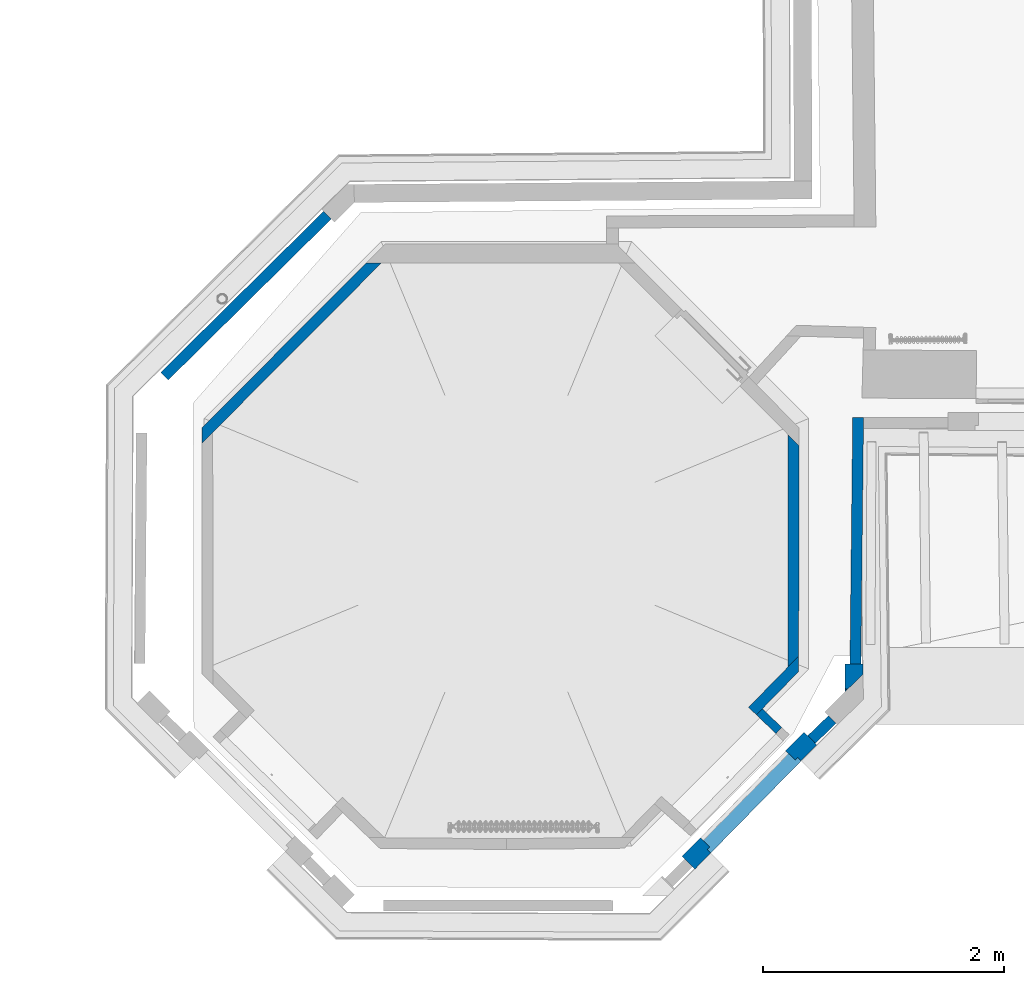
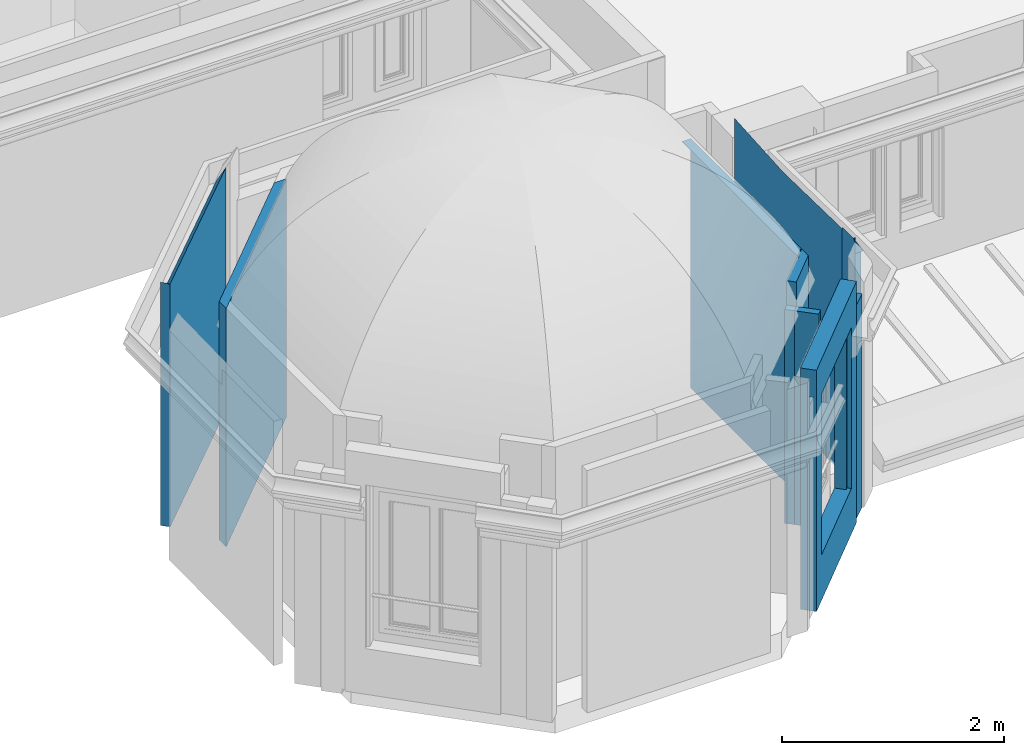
# One storey, part 5 of 72: 9 walls, 1 opening.
"""IFC2X3 building model written with IfcOpenShell, lengths in centimetres."""

import ifcopenshell
import ifcopenshell.guid

model = None  # the IFC model being written
_history = None  # IfcOwnerHistory: only IFC2X3 demands one
_inside = {}  # id of a spatial element -> (the spatial element, [elements in it])
_under = {}  # id of a project, library or spatial element -> (it, [spatial elements below it])
_declared = {}  # id of a project -> (the project, [libraries it declares])
_typed = {}  # id of a type object -> (the type object, [elements of that type])
_made_of = {}  # id of a material, layer set ... -> (it, [elements and type objects made of it])


def new_model(schema):
    """Start an empty IFC model of exactly this schema.

    Asked for "IFC4X3", IfcOpenShell would pick the latest addendum, in which some entities
    have other attributes; the version numbers below select the first issue.
    IFC2X3 requires an IfcOwnerHistory on every rooted entity: one is made here for all.
    """
    global model, _history
    if schema == "IFC4X3":
        model = ifcopenshell.file(schema_version=(4, 3, 0, 0))
    else:
        model = ifcopenshell.file(schema=schema)
    _inside.clear()
    _under.clear()
    _declared.clear()
    _typed.clear()
    _made_of.clear()
    _history = None
    if model.schema == "IFC2X3":
        org = make("IfcOrganization", Name="unknown")
        user = make(
            "IfcPersonAndOrganization",
            ThePerson=make("IfcPerson", FamilyName="unknown"),
            TheOrganization=org,
        )
        app = make(
            "IfcApplication",
            ApplicationDeveloper=org,
            Version="unknown",
            ApplicationFullName="unknown",
            ApplicationIdentifier="unknown",
        )
        _history = make(
            "IfcOwnerHistory",
            OwningUser=user,
            OwningApplication=app,
            ChangeAction="ADDED",
            CreationDate=0,
        )
    return model


def make(cls, **values):
    """One entity of the class cls with the attributes given. An attribute that is None is left unset."""
    return model.create_entity(
        cls, **{name: value for name, value in values.items() if value is not None}
    )


def entity(cls, *values):
    """Any entity or typed value of the class cls, its attributes in the order of the schema. None: left unset."""
    e = model.create_entity(cls)
    for i, value in enumerate(values):
        if value is not None:
            e[i] = value
    return e


def rooted(cls, **values):
    """An entity with a GlobalId (a new one), such as an element, a storey or a relation."""
    return make(cls, GlobalId=ifcopenshell.guid.new(), OwnerHistory=_history, **values)


def si_unit(unit_type, name, prefix=None):
    """IfcSIUnit, for example si_unit("LENGTHUNIT", "METRE", prefix="MILLI")."""
    return make("IfcSIUnit", UnitType=unit_type, Prefix=prefix, Name=name)


def converted_unit(unit_type, name, factor, base, dimensions=None, offset=None):
    """IfcConversionBasedUnit, such as the inch: factor (a typed value) times the base unit."""
    return make(
        "IfcConversionBasedUnit"
        if offset is None
        else "IfcConversionBasedUnitWithOffset",
        ConversionOffset=offset,
        Dimensions=None
        if dimensions is None
        else entity("IfcDimensionalExponents", *dimensions),
        UnitType=unit_type,
        Name=name,
        ConversionFactor=make(
            "IfcMeasureWithUnit", ValueComponent=factor, UnitComponent=base
        ),
    )


def assignment(units):
    """IfcUnitAssignment: the units of a project."""
    return None if units is None else make("IfcUnitAssignment", Units=units)


def point(xyz):
    """IfcCartesianPoint."""
    return None if xyz is None else make("IfcCartesianPoint", Coordinates=xyz)


def direction(xyz):
    """IfcDirection."""
    return None if xyz is None else make("IfcDirection", DirectionRatios=xyz)


def frame(location, z_axis=None, x_axis=None):
    """IfcAxis2Placement3D, a coordinate frame: its origin and axes. An axis left out is left unset."""
    return make(
        "IfcAxis2Placement3D",
        Location=point(location),
        Axis=direction(z_axis),
        RefDirection=direction(x_axis),
    )


def frame_2d(location, x_axis=None):
    """IfcAxis2Placement2D, a coordinate frame in the plane: its origin and x axis."""
    return make(
        "IfcAxis2Placement2D", Location=point(location), RefDirection=direction(x_axis)
    )


def origin():
    """The frame at (0, 0, 0) with its axes left unset."""
    return frame((0.0, 0.0, 0.0))


def origin_with_axes():
    """The frame at (0, 0, 0) with the z axis (0, 0, 1) and the x axis (1, 0, 0) written out."""
    return frame((0.0, 0.0, 0.0), z_axis=(0.0, 0.0, 1.0), x_axis=(1.0, 0.0, 0.0))


def origin_2d_with_axis():
    """The frame at (0, 0) in the plane with the x axis (1, 0) written out."""
    return frame_2d((0.0, 0.0), x_axis=(1.0, 0.0))


def place(relative_to, where):
    """IfcLocalPlacement: puts the frame where relative to a parent placement (None: the world)."""
    return make(
        "IfcLocalPlacement", PlacementRelTo=relative_to, RelativePlacement=where
    )


def context(
    kind, dimensions, precision=None, world=None, true_north=None, identifier=None
):
    """IfcGeometricRepresentationContext, for example the 3D "Model" context."""
    return make(
        "IfcGeometricRepresentationContext",
        ContextIdentifier=identifier,
        ContextType=kind,
        CoordinateSpaceDimension=dimensions,
        Precision=precision,
        WorldCoordinateSystem=world,
        TrueNorth=true_north,
    )


def subcontext(parent, identifier, kind, view, scale=None):
    """IfcGeometricRepresentationSubContext, for example "Body" below "Model"."""
    return make(
        "IfcGeometricRepresentationSubContext",
        ContextIdentifier=identifier,
        ContextType=kind,
        ParentContext=parent,
        TargetScale=scale,
        TargetView=view,
    )


def project(units=None, contexts=None):
    """IfcProject with its units and contexts."""
    return rooted(
        "IfcProject",
        Name="project",
        RepresentationContexts=contexts,
        UnitsInContext=assignment(units),
    )


def spatial(cls, under=None, at=None, **own):
    """A site, building, storey or space (cls), placed at a placement, below another one or the project."""
    s = rooted(cls, ObjectPlacement=at, **own)
    if under is not None:
        _under.setdefault(under.id(), (under, []))[1].append(s)
    return s


def polyline(points):
    """IfcPolyline through the points."""
    return make("IfcPolyline", Points=[point(p) for p in points])


def profile(cls, at=None, kind="AREA", **sizes):
    """A parametric profile (cls). Its sizes go by their IFC names, for example OverallWidth=200.0."""
    return make(cls, ProfileType=kind, Position=at, **sizes)


def rectangle(**sizes):
    """IfcRectangleProfileDef."""
    return profile("IfcRectangleProfileDef", **sizes)


def outline(outer, holes=None, kind="AREA"):
    """IfcArbitraryClosedProfileDef: a profile drawn as a closed curve; with holes, ...WithVoids."""
    if holes is None:
        return make("IfcArbitraryClosedProfileDef", ProfileType=kind, OuterCurve=outer)
    return make(
        "IfcArbitraryProfileDefWithVoids",
        ProfileType=kind,
        OuterCurve=outer,
        InnerCurves=holes,
    )


def extrude(swept, where, along, depth):
    """IfcExtrudedAreaSolid: the profile swept, set in the frame where, extruded along a direction by depth."""
    return make(
        "IfcExtrudedAreaSolid",
        SweptArea=swept,
        Position=where,
        ExtrudedDirection=direction(along),
        Depth=depth,
    )


def clip(a, b, op="DIFFERENCE"):
    """IfcBooleanClippingResult: the solid a cut by the half space b."""
    return make(
        "IfcBooleanClippingResult", Operator=op, FirstOperand=a, SecondOperand=b
    )


def bounded_halfspace(plane, agree, where, boundary):
    """IfcPolygonalBoundedHalfSpace: a half space limited to a polygon's prism."""
    return make(
        "IfcPolygonalBoundedHalfSpace",
        BaseSurface=make("IfcPlane", Position=plane),
        AgreementFlag=agree,
        Position=where,
        PolygonalBoundary=boundary,
    )


def faces_of(points, faces, orient=None, outer=None):
    """IfcFace entities. A face is a list of loops; a loop is a list of indices into points, from 0.

    orient and outer hold one flag for each loop. By default every Orientation is true, the
    first loop of a face is its IfcFaceOuterBound and the others are IfcFaceBound.
    """
    made = []
    for i, loops in enumerate(faces):
        bounds = []
        for j, loop in enumerate(loops):
            is_outer = j == 0 if outer is None else outer[i][j]
            bounds.append(
                make(
                    "IfcFaceOuterBound" if is_outer else "IfcFaceBound",
                    Bound=make("IfcPolyLoop", Polygon=[points[k] for k in loop]),
                    Orientation=True if orient is None else orient[i][j],
                )
            )
        made.append(make("IfcFace", Bounds=bounds))
    return made


def faceted_brep(points, faces, orient=None, outer=None, voids=None):
    """IfcFacetedBrep: a solid bounded by flat faces; with voids (closed shells), ...WithVoids."""
    shared = [point(p) for p in points]
    hull = make("IfcClosedShell", CfsFaces=faces_of(shared, faces, orient, outer))
    if voids is None:
        return make("IfcFacetedBrep", Outer=hull)
    return make(
        "IfcFacetedBrepWithVoids",
        Outer=hull,
        Voids=[
            make(cls, CfsFaces=faces_of(shared, fs, o, b)) for cls, fs, o, b in voids
        ],
    )


def shape(context_of_items, identifier, shape_type, items):
    """IfcShapeRepresentation: the items that make up one representation, for example the "Body"."""
    return make(
        "IfcShapeRepresentation",
        ContextOfItems=context_of_items,
        RepresentationIdentifier=identifier,
        RepresentationType=shape_type,
        Items=items,
    )


def material(Name=None, Category=None):
    """IfcMaterial."""
    return make("IfcMaterial", Name=Name, Category=Category)


def layer(
    of_material, thickness, ventilated=None, Name=None, Category=None, Priority=None
):
    """IfcMaterialLayer: one layer of a wall or slab, of a material (None: an air gap)."""
    return make(
        "IfcMaterialLayer",
        Material=of_material,
        LayerThickness=thickness,
        IsVentilated=ventilated,
        Name=Name,
        Category=Category,
        Priority=Priority,
    )


def layer_set(layers, Name=None):
    """IfcMaterialLayerSet."""
    return make("IfcMaterialLayerSet", MaterialLayers=layers, LayerSetName=Name)


def layer_usage(for_layer_set, set_direction, sense, offset, extent=None):
    """IfcMaterialLayerSetUsage: how a layer set lies in its element."""
    return make(
        "IfcMaterialLayerSetUsage",
        ForLayerSet=for_layer_set,
        LayerSetDirection=set_direction,
        DirectionSense=sense,
        OffsetFromReferenceLine=offset,
        ReferenceExtent=extent,
    )


def made_of(thing, what):
    """Note that an element or type object is made of a material, layer set ...; save() writes the relation."""
    if what is not None:
        _made_of.setdefault(what.id(), (what, []))[1].append(thing)
    return thing


def type_object(cls, material=None, **own):
    """A type object (cls), such as IfcWallType, which elements share."""
    return made_of(rooted(cls, **own), material)


def element(
    cls,
    number,
    at=None,
    inside=None,
    cuts=None,
    type_object=None,
    material=None,
    context=None,
    identifier="Body",
    shape_type=None,
    held_by="IfcProductDefinitionShape",
    body=None,
    shapes=None,
    **own,
):
    """One element of the class cls, such as IfcWall. Its Tag is "e" and its number.

    at: its placement. inside: the storey or other place that contains it. cuts: it is an
    opening in that element (IfcRelVoidsElement). A single representation is given by context,
    identifier, shape_type and body (its items); several are given by shapes. held_by: the class
    of the entity that holds the representations. save() writes the other relations.
    """
    e = rooted(cls, Tag="e%d" % number, ObjectPlacement=at, **own)
    if body is not None:
        shapes = [shape(context, identifier, shape_type, body)]
    if shapes is not None:
        e.Representation = make(held_by, Representations=shapes)
    if inside is not None:
        _inside.setdefault(inside.id(), (inside, []))[1].append(e)
    if cuts is not None:
        rooted(
            "IfcRelVoidsElement", RelatingBuildingElement=cuts, RelatedOpeningElement=e
        )
    if type_object is not None:
        _typed.setdefault(type_object.id(), (type_object, []))[1].append(e)
    return made_of(e, material)


def aggregate(whole, parts):
    """IfcRelAggregates: a whole, such as a stair, and the parts it consists of."""
    return rooted("IfcRelAggregates", RelatingObject=whole, RelatedObjects=parts)


def save(model, path):
    """Write the relations noted so far, then the file.

    IfcRelAggregates (storeys below a building ...), IfcRelContainedInSpatialStructure (elements
    in a storey), IfcRelDefinesByType, IfcRelAssociatesMaterial and IfcRelDeclares: one each for
    every whole, place, type object, material and project.
    """
    for whole, parts in _under.values():
        aggregate(whole, parts)
    for where, things in _inside.values():
        rooted(
            "IfcRelContainedInSpatialStructure",
            RelatedElements=things,
            RelatingStructure=where,
        )
    for kind, things in _typed.values():
        rooted("IfcRelDefinesByType", RelatedObjects=things, RelatingType=kind)
    for what, things in _made_of.values():
        rooted("IfcRelAssociatesMaterial", RelatedObjects=things, RelatingMaterial=what)
    for by, libraries in _declared.values():
        rooted("IfcRelDeclares", RelatingContext=by, RelatedDefinitions=libraries)
    model.write(path)


model = new_model("IFC2X3")

# Units and contexts
model_context = context("Model", 3, precision=0.0001, world=origin(), true_north=direction((0.225632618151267, 0.974212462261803, 0.0)))
body_context = subcontext(model_context, "Body", "Model", "MODEL_VIEW")
footprint_context = subcontext(model_context, "FootPrint", "Model", "MODEL_VIEW")
profile_context = subcontext(model_context, "Profile", "Model", "MODEL_VIEW")
ifc_project = project(units=[si_unit("LENGTHUNIT", "METRE", prefix="CENTI"), si_unit("AREAUNIT", "SQUARE_METRE", prefix="CENTI"), si_unit("VOLUMEUNIT", "CUBIC_METRE", prefix="CENTI"), converted_unit("PLANEANGLEUNIT", "DEGREE", entity("IfcRatioMeasure", 0.0174532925), si_unit("PLANEANGLEUNIT", "RADIAN"), dimensions=[0, 0, 0, 0, 0, 0, 0])], contexts=[model_context])

# Site, building, storey
site_placement = place(None, origin_with_axes())
site = spatial("IfcSite", under=ifc_project, at=site_placement, Name="Default Site", CompositionType="ELEMENT")
building_placement = place(site_placement, origin_with_axes())
building = spatial("IfcBuilding", under=site, at=building_placement, Name="Default Building", CompositionType="ELEMENT")
storey_placement = place(building_placement, frame((0.0, 0.0, 853.910374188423), z_axis=(0.0, 0.0, 1.0), x_axis=(1.0, 0.0, 0.0)))
storey = spatial("IfcBuildingStorey", under=building, at=storey_placement, Name="Niveau 2", CompositionType="ELEMENT", Elevation=853.910374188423)

# Walls
ifc_material = material(Name="<aucun>")
ifc_layer_1 = layer(ifc_material, 9.0)
ifc_layer_set_1 = layer_set([ifc_layer_1], Name="default")
ifc_layer_usage_1 = layer_usage(ifc_layer_set_1, "AXIS2", "POSITIVE", -4.5)
wall_type_1 = type_object("IfcWallType", Name="default 90", PredefinedType="NOTDEFINED", material=ifc_layer_set_1)
wall_1_placement = place(storey_placement, frame((-663.172478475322, -937.635072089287, -1.95399252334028e-11), z_axis=(0.0, 0.0, 1.0), x_axis=(0.0110343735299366, 0.99993911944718, 0.0)))
solid_1 = clip(clip(clip(clip(clip(clip(clip(clip(extrude(outline(polyline([(-0.123339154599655, 4.49999999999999), (-5.32907051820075e-13, -4.4999999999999), (195.51571546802, -4.49999999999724), (204.515007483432, -4.38711412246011), (204.403528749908, 4.50000000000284), (-0.123339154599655, 4.49999999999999)])), frame((0.0, 0.0, 1.97175609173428e-11), z_axis=(0.0, 0.0, 1.0), x_axis=(1.0, 0.0, 0.0)), (0.0, 0.0, 1.0), 269.094116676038), bounded_halfspace(frame((-0.123339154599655, 4.49999999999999, 268.64894340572), z_axis=(-0.0180930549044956, 0.869206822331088, -0.494117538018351), x_axis=(0.999330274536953, 3.68108321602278e-15, -0.0365923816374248)), True, frame((-0.123339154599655, 4.49999999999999, 268.64894340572), z_axis=(0.0, 0.0, 1.0), x_axis=(1.0, 0.0, 0.0)), polyline([(0.0, 8.88178419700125e-14), (0.123339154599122, -8.99999999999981), (6.68209769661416, -8.9999999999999), (6.5891691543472, 1.77635683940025e-13), (0.0, 8.88178419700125e-14)]))), bounded_halfspace(frame((204.480700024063, -1.65211438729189, 258.270931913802), z_axis=(0.0256882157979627, 0.870168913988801, -0.492083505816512), x_axis=(-0.00617628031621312, 0.492374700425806, 0.870361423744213)), True, frame((204.480700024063, -1.65211438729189, 258.270931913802), z_axis=(0.0, 0.0, 1.0), x_axis=(1.0, 0.0, 0.0)), polyline([(-8.96498455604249, -2.84788561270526), (0.0343074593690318, -2.73499973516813), (8.88178419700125e-14, 8.88178419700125e-14), (-8.96498455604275, -0.0700146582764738), (-8.96498455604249, -2.84788561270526)]))), bounded_halfspace(frame((203.41141621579, 4.50000000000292, 269.094116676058), z_axis=(0.0256882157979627, 0.870168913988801, -0.492083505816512), x_axis=(0.997797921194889, 0.00779259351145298, 0.0658679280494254)), True, frame((203.41141621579, 4.50000000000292, 269.094116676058), z_axis=(0.0, 0.0, 1.0), x_axis=(1.0, 0.0, 0.0)), polyline([(-7.89570074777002, -6.22212904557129), (1.06928380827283, -6.15211438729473), (1.02692795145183, -2.77549427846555), (8.88178419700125e-14, 8.88178419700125e-14), (-7.89570074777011, -1.77635683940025e-13), (-7.89570074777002, -6.22212904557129)]))), bounded_halfspace(frame((195.480873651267, -1.72240115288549, 257.67682372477), z_axis=(0.0256882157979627, 0.870168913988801, -0.492083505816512), x_axis=(-0.997797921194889, -0.00779259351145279, -0.0658679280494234)), True, frame((195.480873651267, -1.72240115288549, 257.67682372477), z_axis=(0.0, 0.0, 1.0), x_axis=(1.0, 0.0, 0.0)), polyline([(-80.2808331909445, -0.626976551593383), (-80.0574329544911, -2.77759884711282), (0.0348418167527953, -2.77759884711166), (8.88178419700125e-14, 8.88178419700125e-14), (-80.2808331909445, -0.626976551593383)]))), bounded_halfspace(frame((195.51571546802, -1.72212904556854, 257.679123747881), z_axis=(0.0256882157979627, 0.870168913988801, -0.492083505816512), x_axis=(-2.48637915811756e-14, 0.492245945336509, 0.870456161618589)), True, frame((195.51571546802, -1.72212904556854, 257.679123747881), z_axis=(0.0, 0.0, 1.0), x_axis=(1.0, 0.0, 0.0)), polyline([(-0.0348418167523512, -0.000272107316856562), (3.5527136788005e-13, -2.77787095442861), (8.88178419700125e-14, 1.77635683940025e-13), (-0.0348418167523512, -0.000272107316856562)]))), bounded_halfspace(frame((6.46582999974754, 4.50000000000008, 268.407668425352), z_axis=(-0.0180930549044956, 0.869206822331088, -0.494117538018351), x_axis=(-0.0511849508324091, 0.492745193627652, 0.868666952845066)), True, frame((6.46582999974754, 4.50000000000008, 268.407668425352), z_axis=(0.0, 0.0, 1.0), x_axis=(1.0, 0.0, 0.0)), polyline([(0.0, 8.88178419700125e-14), (0.0794843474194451, -7.69794843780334), (108.734216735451, -6.84937765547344), (108.022723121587, 1.59872115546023e-12), (0.0, 8.88178419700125e-14)]))), bounded_halfspace(frame((203.41141621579, 4.50000000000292, 269.094029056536), z_axis=(-0.575784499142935, 0.651333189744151, -0.494203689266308), x_axis=(-0.651303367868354, 1.67843169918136e-14, 0.758817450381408)), True, frame((203.41141621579, 4.50000000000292, 269.094029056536), z_axis=(0.0, 0.0, 1.0), x_axis=(1.0, 0.0, 0.0)), polyline([(8.88178419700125e-14, 8.88178419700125e-14), (1.02692795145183, -2.77549427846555), (0.992112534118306, -8.88178419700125e-14), (8.88178419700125e-14, 8.88178419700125e-14)]))), bounded_halfspace(frame((6.54531434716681, -3.19794843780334, 254.863224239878), z_axis=(-0.0180930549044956, 0.869206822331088, -0.494117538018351), x_axis=(0.999330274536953, 1.47885176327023e-14, -0.0365923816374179)), True, frame((6.54531434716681, -3.19794843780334, 254.863224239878), z_axis=(0.0, 0.0, 1.0), x_axis=(1.0, 0.0, 0.0)), polyline([(1.77635683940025e-13, 8.88178419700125e-14), (0.0134441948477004, -1.30205156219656), (108.878126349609, -1.30205156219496), (108.654726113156, 0.848570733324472), (1.77635683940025e-13, 8.88178419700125e-14)])))
element("IfcWallStandardCase", 1, at=wall_1_placement, inside=storey, type_object=wall_type_1, material=ifc_layer_usage_1, Name="Enveloppe 466340", context=body_context, shape_type="Clipping", body=[
    clip(solid_1, bounded_halfspace(frame((195.51571546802, 4.50000000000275, 268.681937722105), z_axis=(0.0256882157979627, 0.870168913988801, -0.492083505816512), x_axis=(-1.70809547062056e-14, 0.49224594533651, 0.870456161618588)), True, frame((195.51571546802, 4.50000000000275, 268.681937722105), z_axis=(0.0, 0.0, 1.0), x_axis=(1.0, 0.0, 0.0)), polyline([(-81.0271623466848, -1.06581410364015e-12), (-80.3156687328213, -6.84937765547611), (2.66453525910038e-13, -6.22212904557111), (1.77635683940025e-13, 0.0), (-81.0271623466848, -1.06581410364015e-12)]))),
])
ifc_layer_usage_2 = layer_usage(ifc_layer_set_1, "AXIS2", "POSITIVE", -4.5)
wall_2_placement = place(storey_placement, frame((-699.546930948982, -1000.44998666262, -1.95399252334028e-11), z_axis=(0.0, 0.0, 1.0), x_axis=(0.720446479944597, 0.693510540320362, 0.0)))
element("IfcWallStandardCase", 2, at=wall_2_placement, inside=storey, type_object=wall_type_1, material=ifc_layer_usage_2, Name="Enveloppe 466257", context=body_context, shape_type="SweptSolid", body=[
    extrude(rectangle(XDim=23.8523996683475, YDim=8.99999999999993, at=origin_2d_with_axis()), frame((11.9261998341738, -3.5527136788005e-13, 1.98951966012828e-11), z_axis=(0.0, 0.0, 1.0), x_axis=(1.0, -1.48769885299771e-14, 0.0)), (0.0, 0.0, 1.0), 234.999999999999),
])
ifc_layer_usage_3 = layer_usage(ifc_layer_set_1, "AXIS2", "POSITIVE", -4.5)
wall_3_placement = place(storey_placement, frame((-1236.86780157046, -699.030749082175, -1.95399252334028e-11), z_axis=(0.0, 0.0, 1.0), x_axis=(0.711347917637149, 0.702840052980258, 0.0)))
element("IfcWallStandardCase", 3, at=wall_3_placement, inside=storey, type_object=wall_type_1, material=ifc_layer_usage_3, Name="Enveloppe 465703", context=body_context, shape_type="Clipping", body=[
    clip(clip(clip(clip(clip(clip(extrude(outline(polyline([(0.100000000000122, 4.48945153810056), (0.100000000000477, -4.49999999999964), (190.309701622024, -4.49999999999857), (190.252144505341, 4.50000000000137), (3.72864617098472, 4.49999999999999), (0.100000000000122, 4.48945153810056)])), frame((0.0, 0.0, 1.95399252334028e-11), z_axis=(0.0, 0.0, 1.0), x_axis=(1.0, 0.0, 0.0)), (0.0, 0.0, 1.0), 267.196855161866), bounded_halfspace(frame((0.0999999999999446, 4.48945153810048, 250.895624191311), z_axis=(-0.000857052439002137, -0.875675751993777, -0.482898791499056), x_axis=(0.99997095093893, 0.00290691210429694, -0.00704607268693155)), True, frame((0.0999999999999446, 4.48945153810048, 250.895624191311), z_axis=(0.0, 0.0, 1.0), x_axis=(1.0, 0.0, 0.0)), polyline([(0.0, 0.0), (3.6286461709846, 0.0105484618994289), (0.0, 0.0105445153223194), (0.0, 0.0)]))), bounded_halfspace(frame((0.1000000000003, -4.49999999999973, 267.196855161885), z_axis=(-0.000857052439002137, -0.875675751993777, -0.482898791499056), x_axis=(-0.00133786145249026, 0.482899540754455, -0.875674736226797)), True, frame((0.1000000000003, -4.49999999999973, 267.196855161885), z_axis=(0.0, 0.0, 1.0), x_axis=(1.0, 0.0, 0.0)), polyline([(0.0, 1.77635683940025e-13), (0.0188255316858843, 2.66453525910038e-13), (0.0, 6.79505384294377), (0.0, 1.77635683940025e-13)]))), bounded_halfspace(frame((0.118825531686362, -4.49999999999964, 267.196821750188), z_axis=(-0.000857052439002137, -0.875675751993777, -0.482898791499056), x_axis=(-0.999998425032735, -6.49480469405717e-15, 0.00177480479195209)), True, frame((0.118825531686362, -4.49999999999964, 267.196821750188), z_axis=(0.0, 0.0, 1.0), x_axis=(1.0, 0.0, 0.0)), polyline([(-1.77635683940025e-13, 1.77635683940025e-13), (190.190876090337, 9.76996261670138e-13), (190.133318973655, 9.00000000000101), (83.0935774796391, 9.00000000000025), (83.1239054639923, 0.230587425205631), (-1.77635683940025e-13, 1.77635683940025e-13)]))), bounded_halfspace(frame((74.4870669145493, -4.29366992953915, 266.690679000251), z_axis=(-0.000857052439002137, -0.875675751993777, -0.482898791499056), x_axis=(0.999973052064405, 0.00277040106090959, -0.00679853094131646)), True, frame((74.4870669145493, -4.29366992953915, 266.690679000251), z_axis=(0.0, 0.0, 1.0), x_axis=(1.0, 0.0, 0.0)), polyline([(0.0, 1.77635683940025e-13), (8.75566408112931, 0.0242573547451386), (8.7253360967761, 8.79366992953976), (0.0, 1.77635683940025e-13)]))), bounded_halfspace(frame((0.116164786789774, -3.53960721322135, 265.455275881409), z_axis=(-0.000857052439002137, -0.875675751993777, -0.482898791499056), x_axis=(0.431843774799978, 0.435225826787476, -0.789993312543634)), True, frame((0.116164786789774, -3.53960721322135, 265.455275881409), z_axis=(0.0, 0.0, 1.0), x_axis=(1.0, 0.0, 0.0)), polyline([(0.0, 0.0), (75.5988204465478, 0.483472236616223), (83.0962382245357, 8.03960721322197), (3.61248138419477, 8.03960721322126), (-0.0161647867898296, 8.02905875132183), (0.0, 0.0)]))), bounded_halfspace(frame((0.118825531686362, -4.49999999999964, 267.196821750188), z_axis=(-0.000857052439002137, -0.875675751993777, -0.482898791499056), x_axis=(0.999972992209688, 0.00277436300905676, -0.00680571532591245)), True, frame((0.118825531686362, -4.49999999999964, 267.196821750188), z_axis=(0.0, 0.0, 1.0), x_axis=(1.0, 0.0, 0.0)), polyline([(-1.77635683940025e-13, 1.77635683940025e-13), (74.368241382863, 0.20633007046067), (75.5961597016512, 1.44386502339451), (-0.00266074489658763, 0.960392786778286), (-1.77635683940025e-13, 1.77635683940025e-13)]))),
])
ifc_layer_usage_4 = layer_usage(ifc_layer_set_1, "AXIS2", "POSITIVE", -4.5)
wall_4_placement = place(storey_placement, frame((-714.730000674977, -940.36246470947, 1.4210854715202e-12), z_axis=(0.0, 0.0, 1.0), x_axis=(0.000547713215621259, 0.999999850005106, 0.0)))
element("IfcWallStandardCase", 4, at=wall_4_placement, inside=storey, type_object=wall_type_1, material=ifc_layer_usage_4, Name="Enveloppe 159358", context=body_context, shape_type="Clipping", body=[
    clip(clip(extrude(outline(polyline([(0.00421329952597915, 4.49860854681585), (9.22302143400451, -4.50000000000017), (208.012746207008, -4.50000000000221), (208.012746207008, 4.49999999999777), (0.00421329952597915, 4.49860854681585)])), frame((0.0, 0.0, -1.77635683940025e-13), z_axis=(0.0, 0.0, 1.0), x_axis=(1.0, 0.0, 0.0)), (0.0, 0.0, 1.0), 261.845587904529), bounded_halfspace(frame((186.101171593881, -2.42321950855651, 261.397660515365), z_axis=(0.0, 0.0, 1.0), x_axis=(0.708906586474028, 0.705302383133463, 0.0)), True, frame((186.101171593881, -2.42321950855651, 261.397660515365), z_axis=(0.0, 0.0, 1.0), x_axis=(1.0, 0.0, 0.0)), polyline([(-2.08739315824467, -2.07678049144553), (6.95859822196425, 6.92321950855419), (21.8458299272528, 6.9232195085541), (12.7998385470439, -2.07678049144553), (-2.08739315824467, -2.07678049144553)]))), bounded_halfspace(frame((208.012746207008, -4.50000000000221, 261.397660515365), z_axis=(0.0, 0.0, 1.0), x_axis=(-1.0, 1.47223813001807e-14, 0.0)), True, frame((208.012746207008, -4.50000000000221, 261.397660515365), z_axis=(0.0, 0.0, 1.0), x_axis=(1.0, 0.0, 0.0)), polyline([(-9.11173606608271, 1.77635683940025e-13), (-0.065744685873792, 8.99999999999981), (2.66453525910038e-13, 8.99999999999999), (-8.88178419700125e-14, 0.0), (-9.11173606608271, 1.77635683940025e-13)]))),
])
ifc_layer_usage_5 = layer_usage(ifc_layer_set_1, "AXIS2", "POSITIVE", -4.5)
wall_5_placement = place(storey_placement, frame((-1200.12516200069, -742.652861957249, 1.4210854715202e-12), z_axis=(0.0, 0.0, 1.0), x_axis=(0.705597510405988, 0.708612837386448, 0.0)))
element("IfcWallStandardCase", 5, at=wall_5_placement, inside=storey, type_object=wall_type_1, material=ifc_layer_usage_5, Name="Enveloppe 159241", context=body_context, shape_type="SweptSolid", body=[
    extrude(outline(polyline([(-3.38190532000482, 4.4999999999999), (-12.3917793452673, -4.49999999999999), (198.80786142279, -4.49999999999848), (189.857090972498, 4.50000000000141), (-3.38190532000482, 4.4999999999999)])), frame((0.0, 0.0, -3.5527136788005e-13), z_axis=(0.0, 0.0, 1.0), x_axis=(1.0, 0.0, 0.0)), (0.0, 0.0, 1.0), 261.845587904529),
])
ifc_layer_usage_6 = layer_usage(ifc_layer_set_1, "AXIS2", "POSITIVE", -4.5)
wall_6_placement = place(storey_placement, frame((-743.740638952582, -971.873014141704, 1.4210854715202e-12), z_axis=(0.0, 0.0, 1.0), x_axis=(0.698955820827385, 0.71516484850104, 0.0)))
element("IfcWallStandardCase", 6, at=wall_6_placement, inside=storey, type_object=wall_type_1, material=ifc_layer_usage_6, Name="Enveloppe 159352", context=body_context, shape_type="Clipping", body=[
    clip(clip(clip(extrude(outline(polyline([(-6.99893243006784, 4.4999999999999), (-6.92140207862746, -4.50000000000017), (43.3366315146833, -4.49999999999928), (52.5554404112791, 4.50000000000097), (-6.99893243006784, 4.4999999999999)])), origin_with_axes(), (0.0, 0.0, 1.0), 261.845587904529), bounded_halfspace(frame((37.1993683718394, 3.27206006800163, 234.007564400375), z_axis=(0.0, 0.0, -1.0), x_axis=(0.997918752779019, 0.0644838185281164, 0.0)), True, frame((37.1993683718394, 3.27206006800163, 234.007564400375), z_axis=(0.0, 0.0, 1.0), x_axis=(1.0, 0.0, 0.0)), polyline([(0.0, 0.0), (6.41995979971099, 0.414846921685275), (0.476690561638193, 0.471475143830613), (0.0, 0.0)]))), bounded_halfspace(frame((50.8924962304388, 4.15688678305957, 234.007564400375), z_axis=(0.0, 0.0, -1.0), x_axis=(-0.997918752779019, -0.0644838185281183, 0.0)), True, frame((50.8924962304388, 4.15688678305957, 234.007564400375), z_axis=(0.0, 0.0, 1.0), x_axis=(1.0, 0.0, 0.0)), polyline([(-7.2731680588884, -0.469979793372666), (-0.540042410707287, -0.534133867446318), (0.0, -8.88178419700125e-14), (-7.2731680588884, -0.469979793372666)]))), bounded_halfspace(frame((-6.92140207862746, -4.50000000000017, 234.999999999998), z_axis=(0.0, 0.0, -1.0), x_axis=(1.0, 1.92623694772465e-14, 0.0)), True, frame((-6.92140207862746, -4.50000000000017, 234.999999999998), z_axis=(0.0, 0.0, 1.0), x_axis=(1.0, 0.0, 0.0)), polyline([(-0.0775303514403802, 9.00000000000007), (1.77635683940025e-13, 8.88178419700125e-14), (6.92140207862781, 1.77635683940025e-13), (6.92140207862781, 9.00000000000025), (-0.0775303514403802, 9.00000000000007)]))),
])
ifc_layer_2 = layer(ifc_material, 15.0)
ifc_layer_set_2 = layer_set([ifc_layer_2], Name="default")
ifc_layer_usage_7 = layer_usage(ifc_layer_set_2, "AXIS2", "POSITIVE", -7.5)
wall_type_2 = type_object("IfcWallType", Name="default 150", PredefinedType="NOTDEFINED", material=ifc_layer_set_2)
wall_7_placement = place(storey_placement, frame((-664.139222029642, -967.100236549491, -1.95399252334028e-11), z_axis=(0.0, 0.0, 1.0), x_axis=(-0.00266889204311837, 0.999996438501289, 0.0)))
solid_2 = clip(clip(clip(clip(clip(clip(clip(clip(extrude(outline(polyline([(29.4008155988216, 7.50000000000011), (6.25517495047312, 7.50000000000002), (6.25517495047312, -1.51319275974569), (15.1203293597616, -1.45016848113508), (21.1126959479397, -7.49999999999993), (29.4008155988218, -7.49999999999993), (29.4008155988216, 7.50000000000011)])), frame((0.0, 0.0, 1.98951966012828e-11), z_axis=(0.0, 0.0, 1.0), x_axis=(1.0, 0.0, 0.0)), (0.0, 0.0, 1.0), 276.026659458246), bounded_halfspace(frame((7.79898176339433, 5.9381304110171, 260.195625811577), z_axis=(0.0, 0.0, 1.0), x_axis=(0.705890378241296, -0.708321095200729, 0.0)), True, frame((7.79898176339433, 5.9381304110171, 260.195625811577), z_axis=(0.0, 0.0, 1.0), x_axis=(1.0, 0.0, 0.0)), polyline([(-1.54380681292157, -6.37808891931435), (-1.54380681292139, -3.8263654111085), (0.000934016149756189, 0.00231498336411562), (0.530106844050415, -0.531932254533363), (-1.54380681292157, -6.37808891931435)]))), bounded_halfspace(frame((6.25517495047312, 7.50000000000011, 260.195625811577), z_axis=(0.0, 0.0, 1.0), x_axis=(0.703724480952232, -0.710472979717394, 0.0)), True, frame((6.25517495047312, 7.50000000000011, 260.195625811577), z_axis=(0.0, 0.0, 1.0), x_axis=(1.0, 0.0, 0.0)), polyline([(6.95688839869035e-08, -5.38823482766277), (-1.77635683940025e-13, 8.88178419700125e-14), (1.54474088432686, -1.55955446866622), (6.95688839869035e-08, -5.38823482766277)]))), bounded_halfspace(frame((6.25517495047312, -1.5131927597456, 260.195625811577), z_axis=(0.0, 0.0, 1.0), x_axis=(3.09561404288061e-14, 1.0, 0.0)), True, frame((6.25517495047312, -1.5131927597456, 260.195625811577), z_axis=(0.0, 0.0, 1.0), x_axis=(1.0, 0.0, 0.0)), polyline([(0.0, 0.0), (-3.5527136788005e-13, 1.07323425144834), (2.07391365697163, 6.91939091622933), (8.8651544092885, 0.0630242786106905), (0.0, 0.0)]))), bounded_halfspace(frame((9.07186107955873, 7.50000000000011, 276.01862015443), z_axis=(-0.00618055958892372, 0.869373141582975, -0.494117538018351), x_axis=(4.26243242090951e-15, 0.494126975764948, 0.869389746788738)), True, frame((9.07186107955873, 7.50000000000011, 276.01862015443), z_axis=(0.0, 0.0, 1.0), x_axis=(1.0, 0.0, 0.0)), polyline([(-0.742772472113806, -2.09380184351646), (12.040834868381, -14.9999999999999), (20.328954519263, -14.9999999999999), (20.3289545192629, 1.77635683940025e-13), (0.0, 8.88178419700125e-14), (-0.742772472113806, -2.09380184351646)]))), bounded_halfspace(frame((8.42914241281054, 7.50000000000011, 276.021653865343), z_axis=(0.616115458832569, 0.614990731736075, -0.49212614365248), x_axis=(0.195893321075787, 0.485526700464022, 0.851991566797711)), True, frame((8.42914241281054, 7.50000000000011, 276.021653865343), z_axis=(0.0, 0.0, 1.0), x_axis=(1.0, 0.0, 0.0)), polyline([(-2.1739674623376, 8.88178419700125e-14), (-0.628292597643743, -1.55723957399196), (0.0, 0.0), (-2.1739674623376, 8.88178419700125e-14)]))), bounded_halfspace(frame((8.4283069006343, 7.49792916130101, 276.023026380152), z_axis=(-0.00618055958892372, 0.869373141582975, -0.494117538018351), x_axis=(0.4377227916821, -0.441920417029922, -0.783010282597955)), True, frame((8.4283069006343, 7.49792916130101, 276.023026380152), z_axis=(0.0, 0.0, 1.0), x_axis=(1.0, 0.0, 0.0)), polyline([(-0.628391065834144, -1.55748362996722), (-0.0992182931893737, -2.09173100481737), (0.643554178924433, 0.00207083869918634), (0.0, 8.88178419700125e-14), (-0.628391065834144, -1.55748362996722)]))), bounded_halfspace(frame((7.79991577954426, 5.94044539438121, 273.29057783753), z_axis=(-0.00618055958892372, 0.869373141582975, -0.494117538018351), x_axis=(2.00271656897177e-14, -0.494126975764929, -0.86938974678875)), True, frame((7.79991577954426, 5.94044539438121, 273.29057783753), z_axis=(0.0, 0.0, 1.0), x_axis=(1.0, 0.0, 0.0)), polyline([(-1.5447408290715, -6.38040390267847), (0.529172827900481, -0.534247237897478), (-0.000934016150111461, -0.0023149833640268), (-1.54474082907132, -3.82868039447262), (-1.5447408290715, -6.38040390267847)]))), bounded_halfspace(frame((6.25517495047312, 7.50000000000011, 273.299963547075), z_axis=(0.616115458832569, 0.614990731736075, -0.49212614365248), x_axis=(0.195893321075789, 0.485526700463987, 0.851991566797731)), True, frame((6.25517495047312, 7.50000000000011, 273.299963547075), z_axis=(0.0, 0.0, 1.0), x_axis=(1.0, 0.0, 0.0)), polyline([(0.00117591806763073, -5.38532045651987), (1.54474088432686, -1.55955446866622), (-1.77635683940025e-13, 8.88178419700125e-14), (0.00117591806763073, -5.38532045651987)])))
element("IfcWallStandardCase", 7, at=wall_7_placement, inside=storey, type_object=wall_type_2, material=ifc_layer_usage_7, Name="Enveloppe 466473", context=body_context, shape_type="Clipping", body=[
    clip(solid_2, bounded_halfspace(frame((8.32908860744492, 5.40619815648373, 272.343979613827), z_axis=(-0.00618055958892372, 0.869373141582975, -0.494117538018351), x_axis=(-0.437722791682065, 0.441920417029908, 0.783010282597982)), True, frame((8.32908860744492, 5.40619815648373, 272.343979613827), z_axis=(0.0, 0.0, 1.0), x_axis=(1.0, 0.0, 0.0)), polyline([(-2.0739136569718, -6.91939091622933), (6.7912407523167, -6.85636663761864), (-1.77635683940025e-13, 0.0), (-2.07391365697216, -5.84615666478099), (-2.0739136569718, -6.91939091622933)]))),
])

# Wall, opening
ifc_layer_usage_8 = layer_usage(ifc_layer_set_2, "AXIS2", "POSITIVE", -7.5)
wall_8_placement = place(storey_placement, frame((-801.708962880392, -1102.77612932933, -1.95399252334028e-11), z_axis=(0.0, 0.0, 1.0), x_axis=(0.700312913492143, 0.713835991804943, 0.0)))
wall_8 = element("IfcWallStandardCase", 8, at=wall_8_placement, inside=storey, type_object=wall_type_2, material=ifc_layer_usage_8, Name="Enveloppe 460240", context=body_context, shape_type="Clipping", body=[
    clip(clip(extrude(outline(polyline([(0.0, 7.50000000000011), (0.0, -4.65087065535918), (-0.0079181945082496, 4.34968140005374), (-0.0999947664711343, -4.64984758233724), (0.0, -4.65087065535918), (0.0, -7.49999999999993), (144.460745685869, -7.49999999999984), (144.460745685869, -5.76477470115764), (144.718201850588, 3.23154211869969), (144.460745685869, 3.23890998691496), (144.460745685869, 7.5000000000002), (0.0, 7.50000000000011)])), frame((0.0, 0.0, 1.97175609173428e-11), z_axis=(0.0, 0.0, 1.0), x_axis=(1.0, 0.0, 0.0)), (0.0, 0.0, 1.0), 265.061625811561), bounded_halfspace(frame((144.718201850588, 3.23154211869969, 235.000000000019), z_axis=(0.0, 0.0, -1.0), x_axis=(-0.999590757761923, 0.0286062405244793, 0.0)), True, frame((144.718201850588, 3.23154211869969, 235.000000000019), z_axis=(0.0, 0.0, 1.0), x_axis=(1.0, 0.0, 0.0)), polyline([(-0.257456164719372, -8.99631681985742), (0.0, 0.0), (-0.257456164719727, 0.00736786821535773), (-0.257456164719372, -8.99631681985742)]))), bounded_halfspace(frame((-0.0999947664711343, -4.64984758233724, 235.000000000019), z_axis=(0.0, 0.0, -1.0), x_axis=(0.999947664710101, -0.0102307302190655, 0.0)), True, frame((-0.0999947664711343, -4.64984758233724, 235.000000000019), z_axis=(0.0, 0.0, 1.0), x_axis=(1.0, 0.0, 0.0)), polyline([(-1.77635683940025e-13, 0.0), (0.0999947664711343, -0.00102307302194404), (0.0920765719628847, 8.99952898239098), (-1.77635683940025e-13, 0.0)]))),
])
opening_placement = place(wall_8_placement, frame((18.7710097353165, 0.0, 49.9126405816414), z_axis=(0.0, 0.0, 1.0), x_axis=(-1.0, -1.55431223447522e-15, 0.0)))
cartesian_point_1 = entity("IfcCartesianPoint", [-1.77635683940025e-13, 8.88178419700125e-14, 176.82273047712])
cartesian_point_2 = entity("IfcCartesianPoint", [-107.083718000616, -7.50000000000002])
element("IfcOpeningElement", 9, at=opening_placement, cuts=wall_8, Name="Baie 748553", ObjectType="Opening", shapes=[
    shape(body_context, "Body", "Brep", [faceted_brep([(-3.00001944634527, -27.5000140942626, 176.82273718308), (-104.083741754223, -27.5000157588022, 176.82273718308), (-104.083741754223, -27.5000157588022, -2.05378670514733e-05), (-3.00001944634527, -27.5000140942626, -2.05378670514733e-05), (2.84299185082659e-05, 27.4999968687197, -2.05378670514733e-05), (-107.083723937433, 27.499995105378, -2.05378670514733e-05), (-107.083723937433, 27.499995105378, 176.82273718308), (2.84299185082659e-05, 27.4999968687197, 176.82273718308), (-3.00001995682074, 3.50000548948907, -2.05378670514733e-05), (-3.00001995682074, 3.50000548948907, 176.82273718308), (-2.99999954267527, 3.50000548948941, 176.82273718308), (-2.99999954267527, 3.50000548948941, -2.05378670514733e-05), (-1.85512919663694e-05, 3.50000553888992, -2.05378670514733e-05), (-1.85512919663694e-05, 3.50000553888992, 176.82273718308), (-1.85512915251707e-05, 3.49997874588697, 176.82273718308), (-1.85512915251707e-05, 3.49997874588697, -2.05378670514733e-05), (-1.89464983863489e-05, 27.499996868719, -2.05378670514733e-05), (-1.89464983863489e-05, 27.499996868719, 176.82273718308), (-104.083741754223, -27.5000041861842, -2.05378670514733e-05), (-104.083721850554, 3.50001539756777, -2.05378670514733e-05), (-107.083702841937, 3.50004214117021, -2.05378670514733e-05), (-107.083723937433, 27.4999934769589, -2.05378670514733e-05), (-104.083741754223, -27.5000041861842, 176.82273718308), (-104.083742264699, 3.50001539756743, 176.82273718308), (-104.083742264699, 3.50001539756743, -2.05378670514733e-05), (-104.083721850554, 3.50001539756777, 176.82273718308), (-107.083702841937, 3.50001534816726, 176.82273718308), (-107.083702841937, 3.50001534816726, -2.05378670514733e-05), (-107.083702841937, 3.50004214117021, 176.82273718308), (-107.083703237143, 27.4999934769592, 176.82273718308), (-107.083703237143, 27.4999934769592, -2.05378670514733e-05), (-107.083723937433, 27.4999934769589, 176.82273718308)], [[[0, 1, 2, 3]], [[4, 5, 6, 7]], [[0, 3, 8, 9]], [[10, 11, 12, 13]], [[14, 15, 16, 17]], [[3, 18, 19, 20, 21, 4, 15, 11]], [[18, 22, 23, 24]], [[19, 25, 26, 27]], [[20, 28, 29, 30]], [[10, 14, 7, 31, 28, 25, 22, 0]]])]),
    shape(profile_context, "Profile", "GeometricCurveSet", [entity("IfcGeometricCurveSet", [entity("IfcPolyline", [cartesian_point_1, entity("IfcCartesianPoint", [0.0, 0.0, 0.0]), entity("IfcCartesianPoint", [-107.083718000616, 0.0, 0.0]), entity("IfcCartesianPoint", [-107.083718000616, 0.0, 176.82273047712]), cartesian_point_1])])]),
    shape(footprint_context, "FootPrint", "GeometricCurveSet", [entity("IfcGeometricCurveSet", [entity("IfcPolyline", [cartesian_point_2, entity("IfcCartesianPoint", [-1.77635683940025e-13, -7.50000000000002]), entity("IfcCartesianPoint", [0.0, 7.49999999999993]), entity("IfcCartesianPoint", [-107.083718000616, 7.50000000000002]), cartesian_point_2])])]),
])

# Wall
ifc_layer_3 = layer(ifc_material, 7.0)
ifc_layer_set_3 = layer_set([ifc_layer_3], Name="default")
ifc_layer_usage_9 = layer_usage(ifc_layer_set_3, "AXIS2", "POSITIVE", -3.5)
wall_type_3 = type_object("IfcWallType", Name="default 70", PredefinedType="NOTDEFINED", material=ifc_layer_set_3)
wall_9_placement = place(storey_placement, frame((-726.689779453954, -993.050336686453, 1.4210854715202e-12), z_axis=(0.0, 0.0, 1.0), x_axis=(-0.721159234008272, 0.692769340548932, 0.0)))
element("IfcWallStandardCase", 10, at=wall_9_placement, inside=storey, type_object=wall_type_3, material=ifc_layer_usage_9, Name="Enveloppe 161866", context=body_context, shape_type="Clipping", body=[
    clip(clip(extrude(outline(polyline([(22.5271736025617, 3.49999999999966), (0.0, 3.50000000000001), (2.66453525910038e-13, 0.44250233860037), (-0.0339626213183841, -3.49999999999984), (22.4668722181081, -3.50000000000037), (22.5271736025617, 3.49999999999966)])), frame((0.0, 0.0, -1.77635683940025e-13), z_axis=(0.0, 0.0, 1.0), x_axis=(1.0, 0.0, 0.0)), (0.0, 0.0, 1.0), 234.999999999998), bounded_halfspace(frame((-8.88178419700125e-14, 0.442502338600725, 223.703540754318), z_axis=(0.0, 0.0, 1.0), x_axis=(8.38218383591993e-15, 1.0, 0.0)), True, frame((-8.88178419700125e-14, 0.442502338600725, 223.703540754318), z_axis=(0.0, 0.0, 1.0), x_axis=(1.0, 0.0, 0.0)), polyline([(0.0, 0.0), (8.88178419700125e-14, 3.05749766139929), (0.0263387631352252, 3.05749766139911), (0.0, 0.0)]))), bounded_halfspace(frame((-8.88178419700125e-14, -3.49999999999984, 223.703540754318), z_axis=(0.0, 0.0, -1.0), x_axis=(1.83353332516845e-13, 1.0, 0.0)), True, frame((-8.88178419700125e-14, -3.49999999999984, 223.703540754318), z_axis=(0.0, 0.0, 1.0), x_axis=(1.0, 0.0, 0.0)), polyline([(-0.0339626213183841, 0.0), (-8.88178419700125e-14, 0.0), (7.105427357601e-13, 3.94250233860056), (-0.0339626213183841, 0.0)]))),
])

save(model, "model.ifc")
